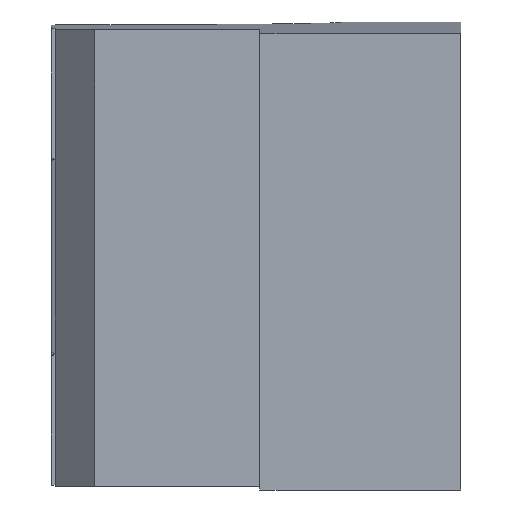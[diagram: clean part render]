
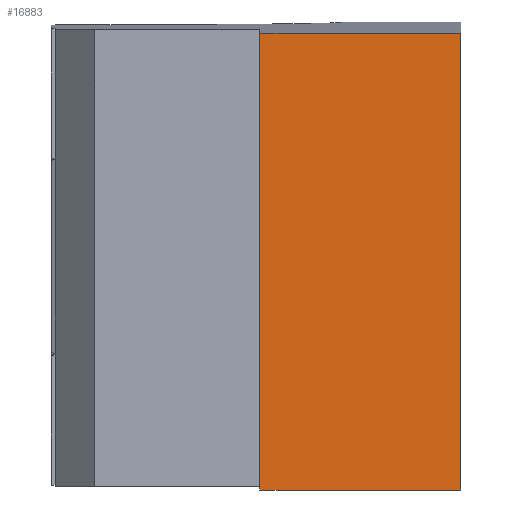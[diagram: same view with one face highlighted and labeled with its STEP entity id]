
A CAD part, left-side view. The second image highlights one B-rep face of the part: STEP entity #16883.
In plain terms, the highlighted planar face has unit normal (-1, 0, -0.009).
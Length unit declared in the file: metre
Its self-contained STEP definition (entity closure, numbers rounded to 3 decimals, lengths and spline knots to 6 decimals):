
#3196=DIRECTION('',(0.,1.,0.));
#3197=VECTOR('',#3196,0.0255);
#3198=CARTESIAN_POINT('',(0.000253,0.,-0.080914));
#3199=LINE('',#3198,#3197);
#3234=DIRECTION('',(0.009,0.,-1.));
#3235=VECTOR('',#3234,0.058);
#3236=CARTESIAN_POINT('',(-0.00025,0.,-0.022916));
#3237=LINE('',#3236,#3235);
#3709=DIRECTION('',(0.,1.,0.));
#3710=VECTOR('',#3709,0.0255);
#3711=CARTESIAN_POINT('',(-0.00025,0.,-0.022916));
#3712=LINE('',#3711,#3710);
#3713=DIRECTION('',(0.009,0.,-1.));
#3714=VECTOR('',#3713,0.058);
#3715=CARTESIAN_POINT('',(-0.00025,0.0255,-0.022916));
#3716=LINE('',#3715,#3714);
#8477=CARTESIAN_POINT('',(-0.00025,0.,-0.022916));
#8478=CARTESIAN_POINT('',(-0.00025,0.0255,-0.022916));
#8479=VERTEX_POINT('',#8477);
#8480=VERTEX_POINT('',#8478);
#8489=CARTESIAN_POINT('',(0.000253,0.0255,-0.080914));
#8490=VERTEX_POINT('',#8489);
#8499=CARTESIAN_POINT('',(0.000253,0.,-0.080914));
#8500=VERTEX_POINT('',#8499);
#16872=CARTESIAN_POINT('',(-0.00025,0.,-0.022916));
#16873=DIRECTION('',(-1.,0.,-0.009));
#16874=DIRECTION('',(0.,1.,0.));
#16875=AXIS2_PLACEMENT_3D('',#16872,#16873,#16874);
#16876=PLANE('',#16875);
#16877=ORIENTED_EDGE('',*,*,#16826,.F.);
#16878=ORIENTED_EDGE('',*,*,#16132,.T.);
#16879=ORIENTED_EDGE('',*,*,#16118,.T.);
#16880=ORIENTED_EDGE('',*,*,#16236,.F.);
#16881=EDGE_LOOP('',(#16877,#16878,#16879,#16880));
#16882=FACE_OUTER_BOUND('',#16881,.F.);
#16883=ADVANCED_FACE('',(#16882),#16876,.T.);
#16118=EDGE_CURVE('',#8500,#8490,#3199,.T.);
#16132=EDGE_CURVE('',#8479,#8500,#3237,.T.);
#16236=EDGE_CURVE('',#8480,#8490,#3716,.T.);
#16826=EDGE_CURVE('',#8479,#8480,#3712,.T.);
